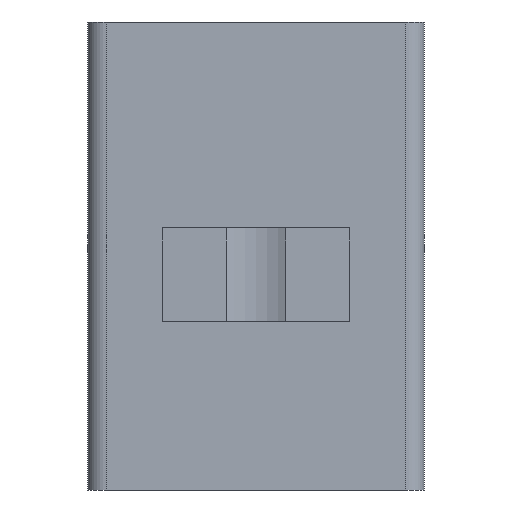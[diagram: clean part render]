
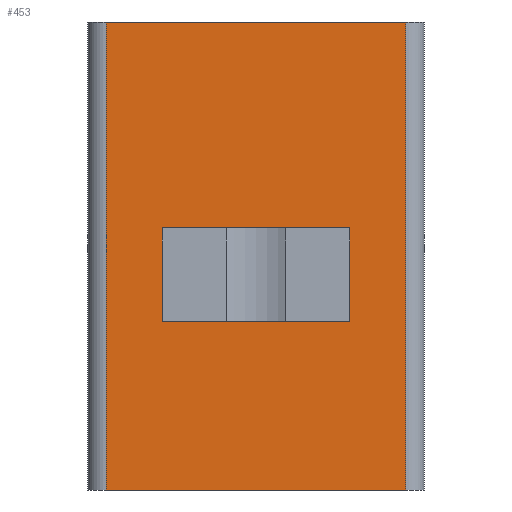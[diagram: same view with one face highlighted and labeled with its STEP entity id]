
A CAD part, front view. The second image highlights one B-rep face of the part: STEP entity #453.
In plain terms, the highlighted planar face has unit normal (0, -1, 0).
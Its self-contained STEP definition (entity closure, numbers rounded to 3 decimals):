
#26 = CARTESIAN_POINT ( 'NONE',  ( 5., -11.5, 1.5 ) ) ;
#44 = ORIENTED_EDGE ( 'NONE', *, *, #319, .F. ) ;
#70 = VECTOR ( 'NONE', #138, 1000. ) ;
#138 = DIRECTION ( 'NONE',  ( 0., 0., -1. ) ) ;
#151 = VECTOR ( 'NONE', #263, 1000. ) ;
#163 = EDGE_CURVE ( 'NONE', #719, #683, #260, .T. ) ;
#227 = ORIENTED_EDGE ( 'NONE', *, *, #456, .T. ) ;
#247 = VECTOR ( 'NONE', #404, 1000. ) ;
#260 = LINE ( 'NONE', #1253, #423 ) ;
#263 = DIRECTION ( 'NONE',  ( 0., 0., 1. ) ) ;
#283 = FACE_BOUND ( 'NONE', #524, .T. ) ;
#296 = LINE ( 'NONE', #1141, #589 ) ;
#306 = CARTESIAN_POINT ( 'NONE',  ( -8., -11.5, 12.5 ) ) ;
#312 = CARTESIAN_POINT ( 'NONE',  ( -5., -11.5, 1.5 ) ) ;
#319 = EDGE_CURVE ( 'NONE', #891, #719, #774, .T. ) ;
#326 = VERTEX_POINT ( 'NONE', #482 ) ;
#352 = EDGE_CURVE ( 'NONE', #478, #1155, #296, .T. ) ;
#379 = CARTESIAN_POINT ( 'NONE',  ( -8., -11.5, -12.5 ) ) ;
#398 = EDGE_CURVE ( 'NONE', #737, #891, #578, .T. ) ;
#404 = DIRECTION ( 'NONE',  ( 1., 0., 0. ) ) ;
#415 = AXIS2_PLACEMENT_3D ( 'NONE', #1128, #1020, #902 ) ;
#423 = VECTOR ( 'NONE', #1143, 1000. ) ;
#431 = CARTESIAN_POINT ( 'NONE',  ( 5., -11.5, 1.5 ) ) ;
#448 = EDGE_CURVE ( 'NONE', #683, #737, #682, .T. ) ;
#451 = VECTOR ( 'NONE', #522, 1000. ) ;
#453 = ADVANCED_FACE ( 'NONE', ( #283, #591 ), #1233, .F. ) ;
#456 = EDGE_CURVE ( 'NONE', #1155, #963, #779, .T. ) ;
#473 = LINE ( 'NONE', #306, #70 ) ;
#478 = VERTEX_POINT ( 'NONE', #379 ) ;
#482 = CARTESIAN_POINT ( 'NONE',  ( -8., -11.5, 12.5 ) ) ;
#484 = CARTESIAN_POINT ( 'NONE',  ( 8., -11.5, 12.5 ) ) ;
#496 = VECTOR ( 'NONE', #532, 1000. ) ;
#504 = ORIENTED_EDGE ( 'NONE', *, *, #398, .F. ) ;
#522 = DIRECTION ( 'NONE',  ( -1., 0., 0. ) ) ;
#524 = EDGE_LOOP ( 'NONE', ( #44, #504, #788, #1105 ) ) ;
#532 = DIRECTION ( 'NONE',  ( 0., 0., 1. ) ) ;
#540 = ORIENTED_EDGE ( 'NONE', *, *, #1187, .F. ) ;
#556 = CARTESIAN_POINT ( 'NONE',  ( -5., -11.5, -3.5 ) ) ;
#578 = LINE ( 'NONE', #431, #151 ) ;
#589 = VECTOR ( 'NONE', #1036, 1000. ) ;
#591 = FACE_OUTER_BOUND ( 'NONE', #936, .T. ) ;
#646 = CARTESIAN_POINT ( 'NONE',  ( -5., -11.5, 1.5 ) ) ;
#652 = CARTESIAN_POINT ( 'NONE',  ( 8., -11.5, 12.5 ) ) ;
#657 = DIRECTION ( 'NONE',  ( 1., 0., 0. ) ) ;
#682 = LINE ( 'NONE', #556, #247 ) ;
#683 = VERTEX_POINT ( 'NONE', #895 ) ;
#687 = CARTESIAN_POINT ( 'NONE',  ( 8., -11.5, -12.5 ) ) ;
#719 = VERTEX_POINT ( 'NONE', #312 ) ;
#737 = VERTEX_POINT ( 'NONE', #1051 ) ;
#774 = LINE ( 'NONE', #646, #451 ) ;
#779 = LINE ( 'NONE', #652, #496 ) ;
#785 = CARTESIAN_POINT ( 'NONE',  ( -9., -11.5, 12.5 ) ) ;
#788 = ORIENTED_EDGE ( 'NONE', *, *, #448, .F. ) ;
#795 = ORIENTED_EDGE ( 'NONE', *, *, #352, .T. ) ;
#862 = VECTOR ( 'NONE', #657, 1000. ) ;
#868 = EDGE_CURVE ( 'NONE', #326, #478, #473, .T. ) ;
#891 = VERTEX_POINT ( 'NONE', #26 ) ;
#895 = CARTESIAN_POINT ( 'NONE',  ( -5., -11.5, -3.5 ) ) ;
#902 = DIRECTION ( 'NONE',  ( 0., 0., 1. ) ) ;
#906 = LINE ( 'NONE', #785, #862 ) ;
#936 = EDGE_LOOP ( 'NONE', ( #540, #1069, #795, #227 ) ) ;
#963 = VERTEX_POINT ( 'NONE', #484 ) ;
#1020 = DIRECTION ( 'NONE',  ( 0., 1., 0. ) ) ;
#1036 = DIRECTION ( 'NONE',  ( 1., 0., 0. ) ) ;
#1051 = CARTESIAN_POINT ( 'NONE',  ( 5., -11.5, -3.5 ) ) ;
#1069 = ORIENTED_EDGE ( 'NONE', *, *, #868, .T. ) ;
#1105 = ORIENTED_EDGE ( 'NONE', *, *, #163, .F. ) ;
#1128 = CARTESIAN_POINT ( 'NONE',  ( -9., -11.5, 12.5 ) ) ;
#1141 = CARTESIAN_POINT ( 'NONE',  ( -9., -11.5, -12.5 ) ) ;
#1143 = DIRECTION ( 'NONE',  ( 0., 0., -1. ) ) ;
#1155 = VERTEX_POINT ( 'NONE', #687 ) ;
#1187 = EDGE_CURVE ( 'NONE', #326, #963, #906, .T. ) ;
#1233 = PLANE ( 'NONE',  #415 ) ;
#1253 = CARTESIAN_POINT ( 'NONE',  ( -5., -11.5, 1.5 ) ) ;
